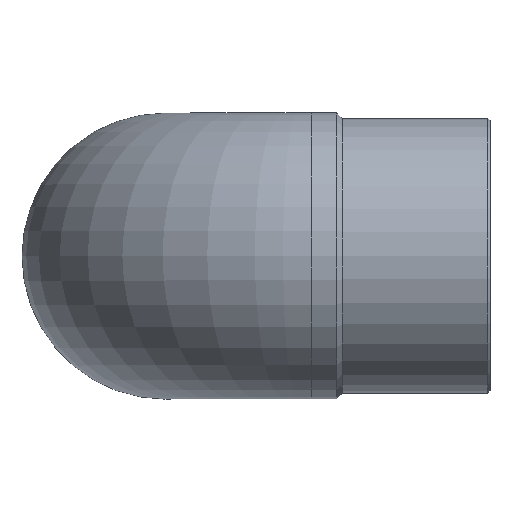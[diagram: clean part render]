
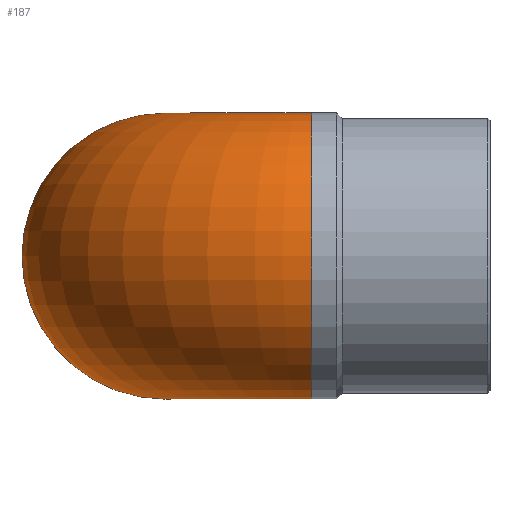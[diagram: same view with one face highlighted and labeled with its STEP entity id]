
A CAD part, top view. The second image highlights one B-rep face of the part: STEP entity #187.
In plain terms, the highlighted toroidal (fillet/blend) face has major radius 120 mm and minor radius 117 mm.
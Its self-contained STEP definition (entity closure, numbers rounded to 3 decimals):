
#27=TOROIDAL_SURFACE('',#221,120.,117.);
#43=ORIENTED_EDGE('',*,*,#78,.F.);
#44=ORIENTED_EDGE('',*,*,#77,.T.);
#77=EDGE_CURVE('',#96,#96,#114,.F.);
#78=EDGE_CURVE('',#97,#97,#115,.F.);
#96=VERTEX_POINT('',#317);
#97=VERTEX_POINT('',#320);
#114=CIRCLE('',#220,117.);
#115=CIRCLE('',#222,117.);
#132=EDGE_LOOP('',(#43));
#133=EDGE_LOOP('',(#44));
#159=FACE_BOUND('',#132,.T.);
#160=FACE_BOUND('',#133,.T.);
#187=ADVANCED_FACE('',(#159,#160),#27,.T.);
#220=AXIS2_PLACEMENT_3D('',#316,#262,#263);
#221=AXIS2_PLACEMENT_3D('',#318,#264,#265);
#222=AXIS2_PLACEMENT_3D('',#319,#266,#267);
#262=DIRECTION('',(0.,0.,-1.));
#263=DIRECTION('',(1.,0.,0.));
#264=DIRECTION('',(0.,1.,0.));
#265=DIRECTION('',(0.,0.,1.));
#266=DIRECTION('',(-1.,0.,0.));
#267=DIRECTION('',(0.,0.,-1.));
#316=CARTESIAN_POINT('',(0.,0.,146.));
#317=CARTESIAN_POINT('',(117.,0.,146.));
#318=CARTESIAN_POINT('',(120.,0.,146.));
#319=CARTESIAN_POINT('',(120.,0.,266.));
#320=CARTESIAN_POINT('',(120.,0.,149.));
